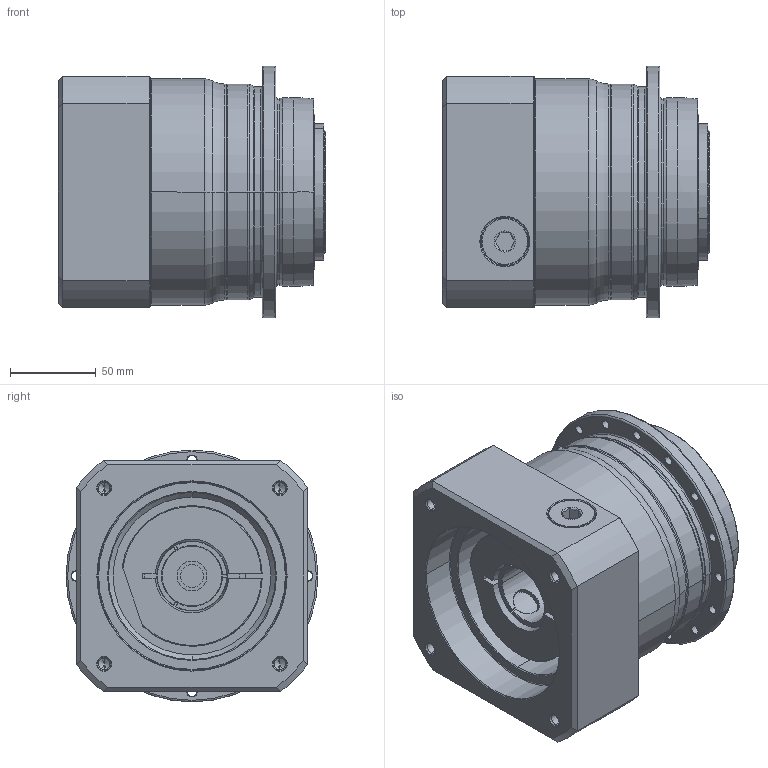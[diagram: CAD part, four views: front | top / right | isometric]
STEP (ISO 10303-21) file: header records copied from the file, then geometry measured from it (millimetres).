
FILE_DESCRIPTION((''),'2;1');
FILE_NAME('AH110_1ST_35-P0409800101_ASM','2016-08-05T',('d00435'),(''),'PRO/ENGINEER BY PARAMETRIC TECHNOLOGY CORPORATION, 2008410','PRO/ENGINEER BY PARAMETRIC TECHNOLOGY CORPORATION, 2008410','');
FILE_SCHEMA(('CONFIG_CONTROL_DESIGN'));
Length unit declared in the file: millimetre
Products named in the file (8): P0278400003; P0359400003; P1318400401; P0409800101; P0503800012; P0912404001; 21711422019; AH110_1ST_35-P0409800101_ASM
Assembly tree (7 placements, depth 2):
  AH110_1ST_35-P0409800101_ASM
    P0278400003
    P0359400003
    P1318400401
    P0409800101
    P0503800012
    P0912404001
    21711422019
Bounding box: 156 x 147 x 147 mm (x, y, z)
Volume: 1648139.7 mm3; surface area: 273985.3 mm2
Topology: 8 solids, 54 shells, 732 faces, 1715 edges, 1061 vertices
Faces by surface type: cylinder 322, cone 194, plane 144, torus 58, bspline 14
Entity records: 25657 total; most frequent: CARTESIAN_POINT 8359, DIRECTION 3999, ORIENTED_EDGE 3142, AXIS2_PLACEMENT_3D 1706, EDGE_CURVE 1661, VERTEX_POINT 1061, CIRCLE 963, EDGE_LOOP 892
